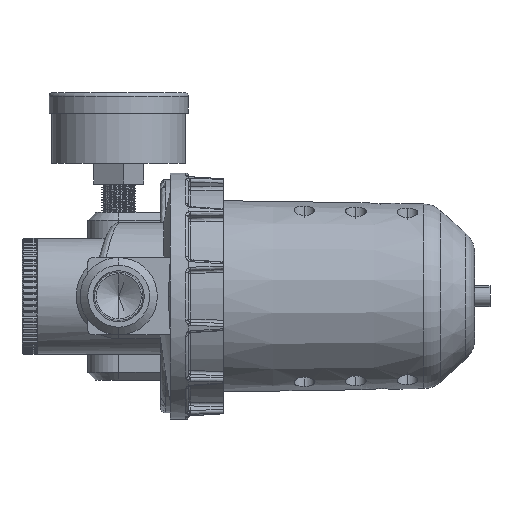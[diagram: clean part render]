
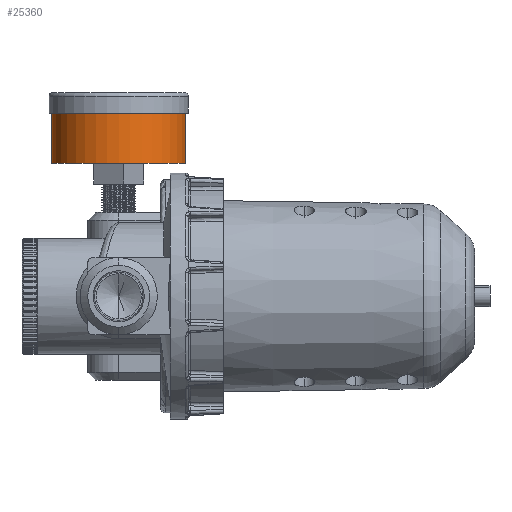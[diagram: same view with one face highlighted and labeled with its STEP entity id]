
A CAD part, left-side view. The second image highlights one B-rep face of the part: STEP entity #25360.
In plain terms, the highlighted cylindrical face has radius 26 mm (diameter 52 mm), a partial arc.
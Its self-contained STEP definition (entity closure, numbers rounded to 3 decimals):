
#511 = CARTESIAN_POINT ( 'NONE',  ( 0., 0., -26. ) ) ;
#952 = VECTOR ( 'NONE', #27341, 1000. ) ;
#1595 = DIRECTION ( 'NONE',  ( 0., -1., 0. ) ) ;
#4643 = CARTESIAN_POINT ( 'NONE',  ( 0., 27.5, -26. ) ) ;
#4657 = CARTESIAN_POINT ( 'NONE',  ( 0., 19.5, 0. ) ) ;
#9899 = AXIS2_PLACEMENT_3D ( 'NONE', #4657, #15259, #11590 ) ;
#10380 = CARTESIAN_POINT ( 'NONE',  ( 0., 0., 0. ) ) ;
#10642 = ORIENTED_EDGE ( 'NONE', *, *, #38752, .F. ) ;
#11590 = DIRECTION ( 'NONE',  ( 0., 0., 1. ) ) ;
#15259 = DIRECTION ( 'NONE',  ( 0., 1., 0. ) ) ;
#16949 = DIRECTION ( 'NONE',  ( 0., 1., 0. ) ) ;
#17094 = DIRECTION ( 'NONE',  ( 0., 0., 1. ) ) ;
#18598 = CARTESIAN_POINT ( 'NONE',  ( 0., 27.5, 0. ) ) ;
#18737 = DIRECTION ( 'NONE',  ( 0., -1., 0. ) ) ;
#19050 = ORIENTED_EDGE ( 'NONE', *, *, #43329, .F. ) ;
#19143 = EDGE_CURVE ( 'NONE', #36988, #31616, #19478, .T. ) ;
#19153 = CIRCLE ( 'NONE', #43510, 26. ) ;
#19231 = ORIENTED_EDGE ( 'NONE', *, *, #19143, .T. ) ;
#19478 = LINE ( 'NONE', #4643, #23825 ) ;
#20517 = VERTEX_POINT ( 'NONE', #43454 ) ;
#21466 = CARTESIAN_POINT ( 'NONE',  ( 0., 0., 26. ) ) ;
#22583 = LINE ( 'NONE', #30961, #952 ) ;
#23825 = VECTOR ( 'NONE', #1595, 1000. ) ;
#25360 = ADVANCED_FACE ( 'NONE', ( #42746 ), #35171, .T. ) ;
#27341 = DIRECTION ( 'NONE',  ( 0., -1., 0. ) ) ;
#29578 = VERTEX_POINT ( 'NONE', #21466 ) ;
#30961 = CARTESIAN_POINT ( 'NONE',  ( 0., 27.5, 26. ) ) ;
#31616 = VERTEX_POINT ( 'NONE', #511 ) ;
#33699 = CIRCLE ( 'NONE', #9899, 26. ) ;
#34264 = AXIS2_PLACEMENT_3D ( 'NONE', #18598, #18737, #36271 ) ;
#35171 = CYLINDRICAL_SURFACE ( 'NONE', #34264, 26. ) ;
#36271 = DIRECTION ( 'NONE',  ( 0., 0., -1. ) ) ;
#36988 = VERTEX_POINT ( 'NONE', #40514 ) ;
#37036 = EDGE_CURVE ( 'NONE', #31616, #29578, #19153, .T. ) ;
#38752 = EDGE_CURVE ( 'NONE', #36988, #20517, #33699, .T. ) ;
#40514 = CARTESIAN_POINT ( 'NONE',  ( 0., 19.5, -26. ) ) ;
#41366 = EDGE_LOOP ( 'NONE', ( #19050, #10642, #19231, #41856 ) ) ;
#41856 = ORIENTED_EDGE ( 'NONE', *, *, #37036, .T. ) ;
#42746 = FACE_OUTER_BOUND ( 'NONE', #41366, .T. ) ;
#43329 = EDGE_CURVE ( 'NONE', #20517, #29578, #22583, .T. ) ;
#43454 = CARTESIAN_POINT ( 'NONE',  ( 0., 19.5, 26. ) ) ;
#43510 = AXIS2_PLACEMENT_3D ( 'NONE', #10380, #16949, #17094 ) ;
